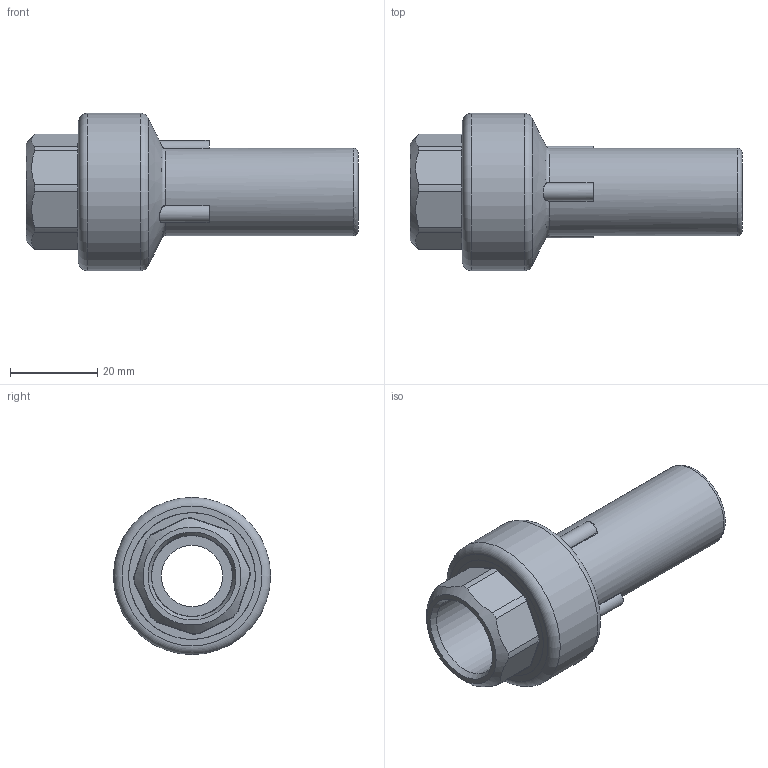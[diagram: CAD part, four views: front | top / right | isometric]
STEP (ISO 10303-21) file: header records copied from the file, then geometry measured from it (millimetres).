
FILE_DESCRIPTION(/* description */ ('Unknown'),/* implementation_level */ '2;1');
FILE_NAME(/* name */ 'RTOFP020C',/* time_stamp */ '2021-03-01T15:24:29+01:00',/* author */ ('Unknown'),/* organization */ ('Unknown'),/* preprocessor_version */ 'ST-DEVELOPER v16.7',/* originating_system */ 'Solid Edge',/* authorisation */ 'Unknown');
FILE_SCHEMA (('AUTOMOTIVE_DESIGN {1 0 10303 214 3 1 1}'));
Length unit declared in the file: millimetre
Products named in the file (3): RTOFP020C; Parte PE 020; IOF020C
Assembly tree (2 placements, depth 2):
  RTOFP020C
    Parte PE 020
    IOF020C
Bounding box: 76 x 36 x 36 mm (x, y, z)
Volume: 23823.6 mm3; surface area: 16467.1 mm2
Topology: 2 solids, 2 shells, 198 faces, 491 edges, 297 vertices
Faces by surface type: plane 95, cylinder 48, torus 36, bspline 15, cone 4
Full cylindrical faces by diameter (mm): 14 x1, 18.5 x3, 18.631 x1, 20 x1, 21.5 x2, 25 x4, 26.4 x2, 29 x8, 36 x1
Entity records: 6528 total; most frequent: CARTESIAN_POINT 1257, DIRECTION 992, ORIENTED_EDGE 868, EDGE_CURVE 434, AXIS2_PLACEMENT_3D 410, VERTEX_POINT 286, EDGE_LOOP 248, FACE_BOUND 248
